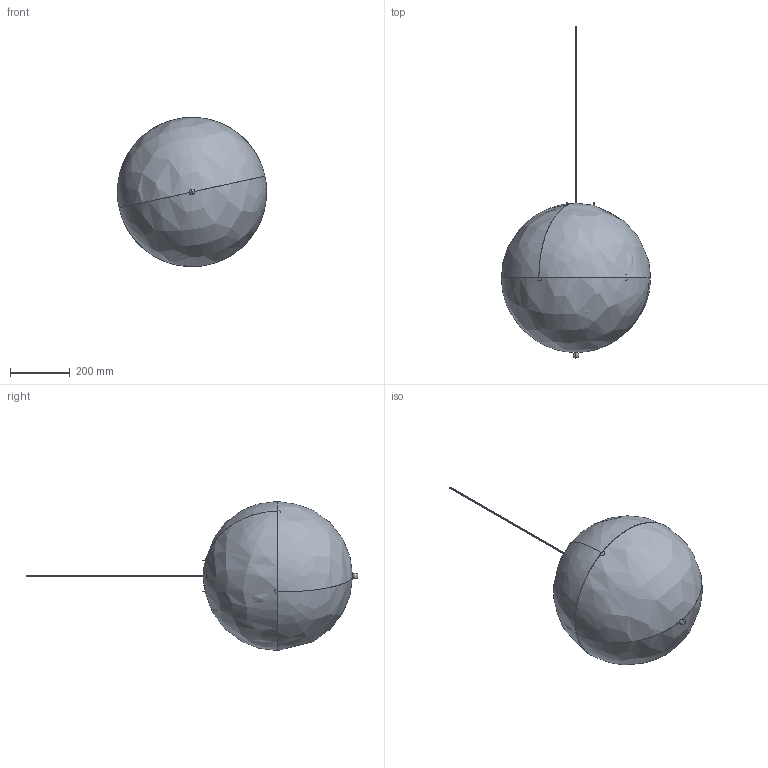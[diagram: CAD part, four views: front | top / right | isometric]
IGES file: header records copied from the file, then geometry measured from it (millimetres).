
Start section: SolidWorks IGES file using analytic representation for surfaces
Global section: file name: C:\Users\Chiina\Desktop\Chiina\Dokumendid\Frandsen Project\VerPan\VP Globe Large\VP Globe Large.IGS; native system: SolidWorks 2013; preprocessor: SolidWorks 2013; author: Chiina; date: 130114.200130; units: millimetre
Bounding box: 499.99 x 1112.1 x 499.91 mm (x, y, z)
Surface area: 2107736.4 mm2 (no closed solid volume)
Topology: 0 solids, 0 shells, 142 faces, 3974 edges, 3956 vertices
Faces by surface type: revolution 84, bspline 58
